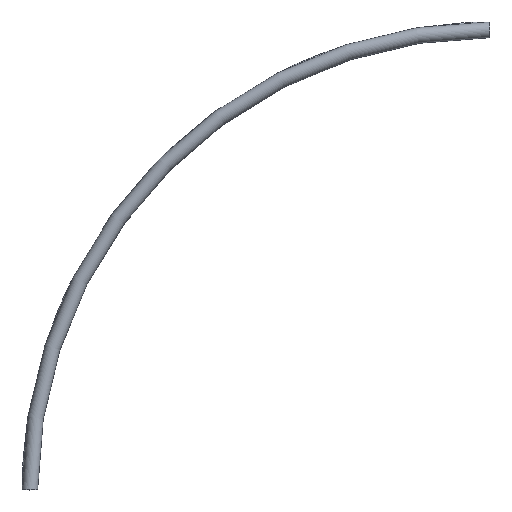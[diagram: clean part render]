
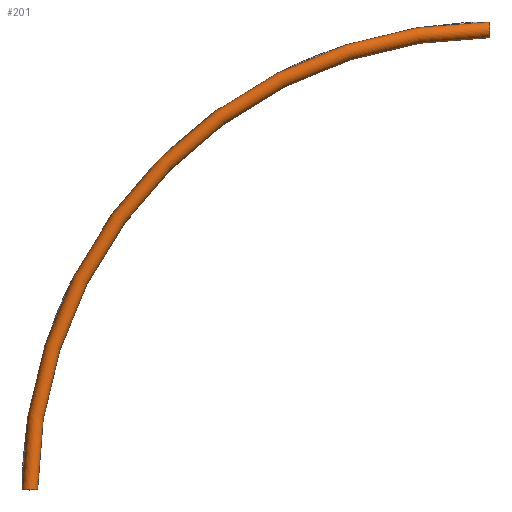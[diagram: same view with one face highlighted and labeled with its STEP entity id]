
A CAD part, top view. The second image highlights one B-rep face of the part: STEP entity #201.
In plain terms, the highlighted toroidal (fillet/blend) face has major radius 1475 mm and minor radius 25 mm.
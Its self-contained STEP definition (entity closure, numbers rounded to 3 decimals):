
#187 = EDGE_LOOP ( 'NONE', ( #214, #220, #221, #198 ) ) ;
#196 = VERTEX_POINT ( 'NONE', #978 ) ;
#198 = ORIENTED_EDGE ( 'NONE', *, *, #203, .F. ) ;
#200 = VERTEX_POINT ( 'NONE', #972 ) ;
#201 = ADVANCED_FACE ( 'NONE', ( #971 ), #970, .T. ) ;
#203 = EDGE_CURVE ( 'NONE', #219, #200, #1021, .T. ) ;
#209 = EDGE_CURVE ( 'NONE', #196, #218, #1015, .T. ) ;
#211 = EDGE_CURVE ( 'NONE', #218, #200, #1037, .T. ) ;
#214 = ORIENTED_EDGE ( 'NONE', *, *, #216, .F. ) ;
#216 = EDGE_CURVE ( 'NONE', #196, #219, #1105, .T. ) ;
#218 = VERTEX_POINT ( 'NONE', #1100 ) ;
#219 = VERTEX_POINT ( 'NONE', #1099 ) ;
#220 = ORIENTED_EDGE ( 'NONE', *, *, #209, .T. ) ;
#221 = ORIENTED_EDGE ( 'NONE', *, *, #211, .T. ) ;
#965 = DIRECTION ( 'NONE',  ( 1., 0., 0. ) ) ;
#966 = DIRECTION ( 'NONE',  ( 0., 0., 1. ) ) ;
#967 = CARTESIAN_POINT ( 'NONE',  ( 0., 0., 0. ) ) ;
#968 = AXIS2_PLACEMENT_3D ( 'NONE', #967, #966, #965 ) ;
#970 = TOROIDAL_SURFACE ( 'NONE', #968, 1475., 25. ) ;
#971 = FACE_OUTER_BOUND ( 'NONE', #187, .T. ) ;
#972 = CARTESIAN_POINT ( 'NONE',  ( -1450., 0., 0. ) ) ;
#978 = CARTESIAN_POINT ( 'NONE',  ( 0., 1500., 0. ) ) ;
#1015 = CIRCLE ( 'NONE', #1041, 1500. ) ;
#1018 = DIRECTION ( 'NONE',  ( 1., 0., 0. ) ) ;
#1019 = DIRECTION ( 'NONE',  ( 0., 0., 1. ) ) ;
#1020 = AXIS2_PLACEMENT_3D ( 'NONE', #1025, #1019, #1018 ) ;
#1021 = CIRCLE ( 'NONE', #1020, 1450. ) ;
#1025 = CARTESIAN_POINT ( 'NONE',  ( 0., 0., 0. ) ) ;
#1034 = DIRECTION ( 'NONE',  ( 0., 0., 1. ) ) ;
#1035 = DIRECTION ( 'NONE',  ( 0., 1., 0. ) ) ;
#1036 = AXIS2_PLACEMENT_3D ( 'NONE', #1042, #1035, #1034 ) ;
#1037 = CIRCLE ( 'NONE', #1036, 25. ) ;
#1038 = DIRECTION ( 'NONE',  ( 1., 0., 0. ) ) ;
#1039 = DIRECTION ( 'NONE',  ( 0., 0., 1. ) ) ;
#1040 = CARTESIAN_POINT ( 'NONE',  ( 0., 0., 0. ) ) ;
#1041 = AXIS2_PLACEMENT_3D ( 'NONE', #1040, #1039, #1038 ) ;
#1042 = CARTESIAN_POINT ( 'NONE',  ( -1475., 0., 0. ) ) ;
#1099 = CARTESIAN_POINT ( 'NONE',  ( 0., 1450., 0. ) ) ;
#1100 = CARTESIAN_POINT ( 'NONE',  ( -1500., 0., 0. ) ) ;
#1101 = DIRECTION ( 'NONE',  ( 0., 0., 1. ) ) ;
#1102 = DIRECTION ( 'NONE',  ( 1., 0., 0. ) ) ;
#1103 = CARTESIAN_POINT ( 'NONE',  ( 0., 1475., 0. ) ) ;
#1104 = AXIS2_PLACEMENT_3D ( 'NONE', #1103, #1102, #1101 ) ;
#1105 = CIRCLE ( 'NONE', #1104, 25. ) ;
